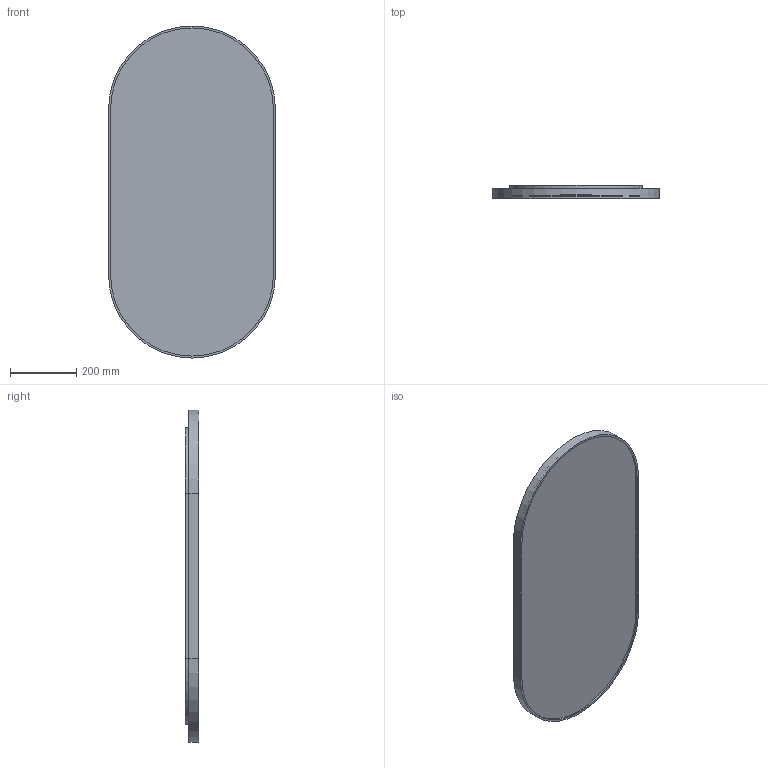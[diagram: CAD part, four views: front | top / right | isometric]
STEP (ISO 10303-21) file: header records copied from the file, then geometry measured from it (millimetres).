
FILE_DESCRIPTION(/* description */ ('Unknown'),/* implementation_level */ '2;1');
FILE_NAME(/* name */ 'Bold-AMB',/* time_stamp */ '2026-01-08T14:35:08+01:00',/* author */ ('Mariusz Kirko'),/* organization */ ('Kraft'),/* preprocessor_version */ 'ST-DEVELOPER v19.4',/* originating_system */ 'Solid Edge',/* authorisation */ 'Unknown');
FILE_SCHEMA (('AUTOMOTIVE_DESIGN {1 0 10303 214 3 1 1}'));
Length unit declared in the file: millimetre
Products named in the file (5): Z這瞠nie 50x100 plus zawieszka; Rama 50x100; Lustro 50x100; 300x30; Ramka HIPS 30mm
Assembly tree (4 placements, depth 2):
  Z這瞠nie 50x100 plus zawieszka
    Rama 50x100
    Lustro 50x100
    300x30
    Ramka HIPS 30mm
Bounding box: 506 x 40 x 1006 mm (x, y, z)
Volume: 2218058.7 mm3; surface area: 1289431.7 mm2
Topology: 4 solids, 4 shells, 93 faces, 248 edges, 164 vertices
Faces by surface type: plane 55, cylinder 36, cone 2
Entity records: 3087 total; most frequent: DIRECTION 518, CARTESIAN_POINT 510, ORIENTED_EDGE 496, EDGE_CURVE 248, LINE 174, VECTOR 174, AXIS2_PLACEMENT_3D 172, VERTEX_POINT 164
